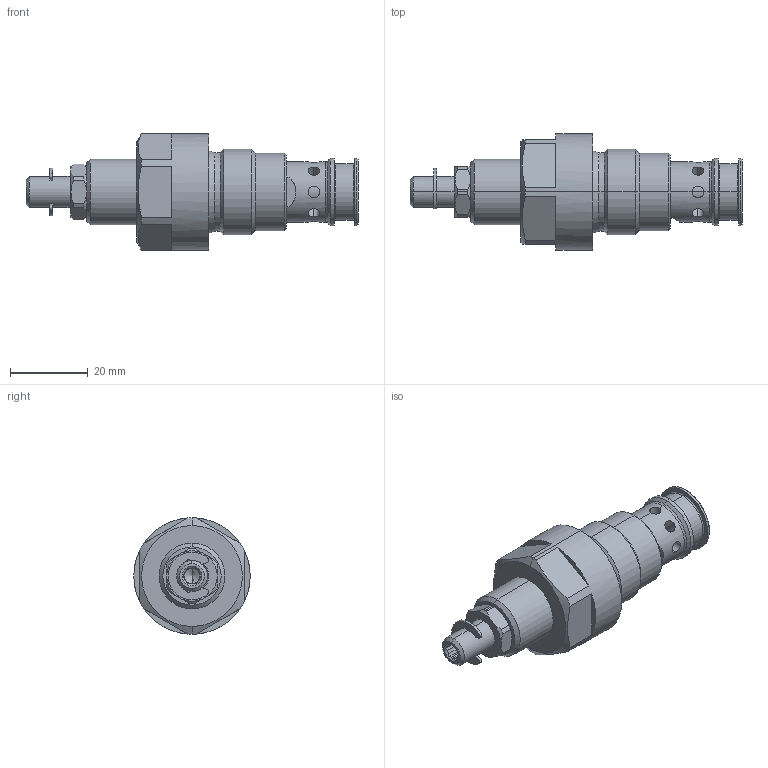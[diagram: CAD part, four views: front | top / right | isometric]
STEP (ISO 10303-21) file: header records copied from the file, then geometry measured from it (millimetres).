
FILE_DESCRIPTION (( 'STEP AP214' ), '1' );
FILE_NAME ('BKSPM22.STEP', '2021-08-23T12:12:16', ( '' ), ( '' ), 'SwSTEP 2.0', 'SolidWorks 2020', '' );
FILE_SCHEMA (( 'AUTOMOTIVE_DESIGN' ));
Length unit declared in the file: millimetre
Products named in the file (1): BKSPM22
Bounding box: 85.6 x 30 x 30 mm (x, y, z)
Volume: 26491.9 mm3; surface area: 7124.3 mm2
Topology: 1 solids, 1 shells, 157 faces, 387 edges, 241 vertices
Faces by surface type: cylinder 65, plane 50, cone 36, torus 6
Entity records: 7289 total; most frequent: CARTESIAN_POINT 1849, DIRECTION 774, ORIENTED_EDGE 770, EDGE_CURVE 385, AXIS2_PLACEMENT_3D 312, VERTEX_POINT 241, EDGE_LOOP 172, UNCERTAINTY_MEASURE_WITH_UNIT 160
